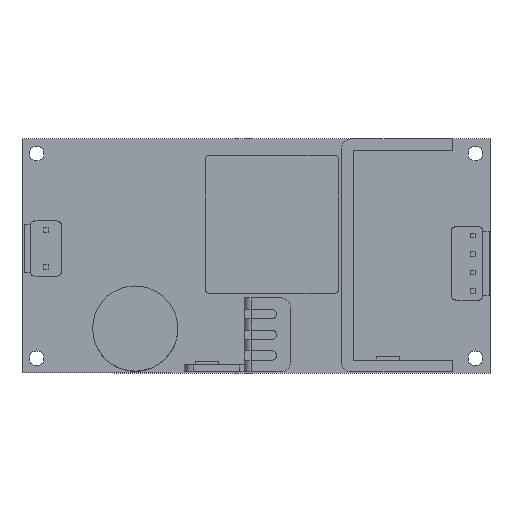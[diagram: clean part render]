
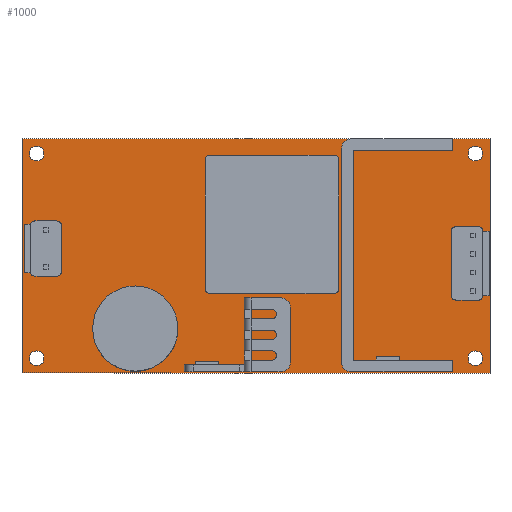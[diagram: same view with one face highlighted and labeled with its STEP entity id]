
A CAD part, top view. The second image highlights one B-rep face of the part: STEP entity #1000.
In plain terms, the highlighted planar face has unit normal (0, 0, 1).
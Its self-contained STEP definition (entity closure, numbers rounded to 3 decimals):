
#10=CARTESIAN_POINT('',(96.6,100.4,0.));
#20=DIRECTION('',(0.,0.,1.));
#30=DIRECTION('',(1.,0.,0.));
#40=AXIS2_PLACEMENT_3D('',#10,#20,#30);
#50=PLANE('',#40);
#60=CARTESIAN_POINT('',(295.025,248.025,0.));
#70=DIRECTION('',(0.,0.,1.));
#80=DIRECTION('',(1.,0.,0.));
#90=AXIS2_PLACEMENT_3D('',#60,#70,#80);
#100=CIRCLE('',#90,1.6);
#110=CARTESIAN_POINT('',(296.625,248.025,0.));
#120=VERTEX_POINT('',#110);
#130=CARTESIAN_POINT('',(293.425,248.025,0.));
#140=VERTEX_POINT('',#130);
#150=EDGE_CURVE('',#120,#140,#100,.T.);
#160=ORIENTED_EDGE('',*,*,#150,.F.);
#170=EDGE_CURVE('',#140,#120,#100,.T.);
#180=ORIENTED_EDGE('',*,*,#170,.F.);
#190=EDGE_LOOP('',(#180,#160));
#200=FACE_BOUND('',#190,.T.);
#210=CARTESIAN_POINT('',(199.775,248.025,0.));
#220=DIRECTION('',(0.,0.,1.));
#230=DIRECTION('',(1.,0.,0.));
#240=AXIS2_PLACEMENT_3D('',#210,#220,#230);
#250=CIRCLE('',#240,1.6);
#260=CARTESIAN_POINT('',(201.375,248.025,0.));
#270=VERTEX_POINT('',#260);
#280=CARTESIAN_POINT('',(198.175,248.025,0.));
#290=VERTEX_POINT('',#280);
#300=EDGE_CURVE('',#270,#290,#250,.T.);
#310=ORIENTED_EDGE('',*,*,#300,.F.);
#320=EDGE_CURVE('',#290,#270,#250,.T.);
#330=ORIENTED_EDGE('',*,*,#320,.F.);
#340=EDGE_LOOP('',(#330,#310));
#350=FACE_BOUND('',#340,.T.);
#360=CARTESIAN_POINT('',(199.775,203.575,0.));
#370=DIRECTION('',(0.,0.,1.));
#380=DIRECTION('',(1.,0.,0.));
#390=AXIS2_PLACEMENT_3D('',#360,#370,#380);
#400=CIRCLE('',#390,1.6);
#410=CARTESIAN_POINT('',(201.375,203.575,0.));
#420=VERTEX_POINT('',#410);
#430=CARTESIAN_POINT('',(198.175,203.575,0.));
#440=VERTEX_POINT('',#430);
#450=EDGE_CURVE('',#420,#440,#400,.T.);
#460=ORIENTED_EDGE('',*,*,#450,.F.);
#470=EDGE_CURVE('',#440,#420,#400,.T.);
#480=ORIENTED_EDGE('',*,*,#470,.F.);
#490=EDGE_LOOP('',(#480,#460));
#500=FACE_BOUND('',#490,.T.);
#510=CARTESIAN_POINT('',(295.025,203.575,0.));
#520=DIRECTION('',(0.,0.,1.));
#530=DIRECTION('',(1.,0.,0.));
#540=AXIS2_PLACEMENT_3D('',#510,#520,#530);
#550=CIRCLE('',#540,1.6);
#560=CARTESIAN_POINT('',(296.625,203.575,0.));
#570=VERTEX_POINT('',#560);
#580=CARTESIAN_POINT('',(293.425,203.575,0.));
#590=VERTEX_POINT('',#580);
#600=EDGE_CURVE('',#570,#590,#550,.T.);
#610=ORIENTED_EDGE('',*,*,#600,.F.);
#620=EDGE_CURVE('',#590,#570,#550,.T.);
#630=ORIENTED_EDGE('',*,*,#620,.F.);
#640=EDGE_LOOP('',(#630,#610));
#650=FACE_BOUND('',#640,.T.);
#660=CARTESIAN_POINT('',(196.6,200.4,0.));
#670=DIRECTION('',(0.,1.,0.));
#680=VECTOR('',#670,1.);
#690=LINE('',#660,#680);
#700=CARTESIAN_POINT('',(196.6,200.396,0.));
#710=VERTEX_POINT('',#700);
#720=CARTESIAN_POINT('',(196.6,251.2,0.));
#730=VERTEX_POINT('',#720);
#740=EDGE_CURVE('',#710,#730,#690,.T.);
#750=ORIENTED_EDGE('',*,*,#740,.F.);
#760=CARTESIAN_POINT('',(196.6,251.2,0.));
#770=DIRECTION('',(1.,0.,0.));
#780=VECTOR('',#770,1.);
#790=LINE('',#760,#780);
#800=CARTESIAN_POINT('',(298.2,251.196,0.));
#810=VERTEX_POINT('',#800);
#820=EDGE_CURVE('',#730,#810,#790,.T.);
#830=ORIENTED_EDGE('',*,*,#820,.F.);
#840=CARTESIAN_POINT('',(298.2,200.391,0.));
#850=DIRECTION('',(0.,1.,0.));
#860=VECTOR('',#850,1.);
#870=LINE('',#840,#860);
#880=CARTESIAN_POINT('',(298.2,200.391,0.));
#890=VERTEX_POINT('',#880);
#900=EDGE_CURVE('',#890,#810,#870,.T.);
#910=ORIENTED_EDGE('',*,*,#900,.T.);
#920=CARTESIAN_POINT('',(196.6,200.391,0.));
#930=DIRECTION('',(1.,0.,0.));
#940=VECTOR('',#930,1.);
#950=LINE('',#920,#940);
#960=EDGE_CURVE('',#710,#890,#950,.T.);
#970=ORIENTED_EDGE('',*,*,#960,.T.);
#980=EDGE_LOOP('',(#970,#910,#830,#750));
#990=FACE_OUTER_BOUND('',#980,.T.);
#1000=ADVANCED_FACE('',(#200,#350,#500,#650,#990),#50,.T.);
